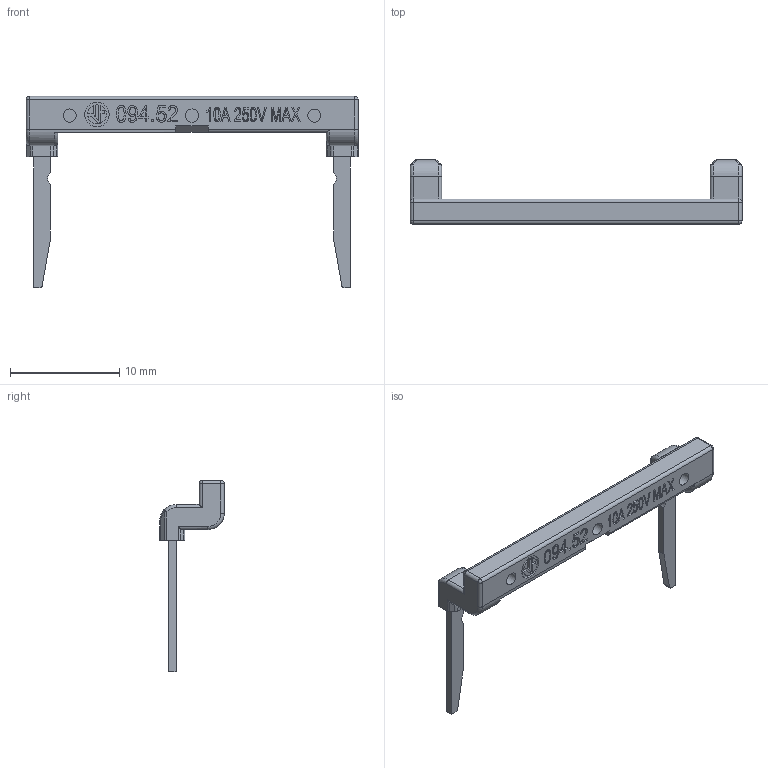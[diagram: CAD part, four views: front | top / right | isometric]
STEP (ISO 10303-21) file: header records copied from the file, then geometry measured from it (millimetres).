
FILE_DESCRIPTION(/* description */ ('Unknown'),/* implementation_level */ '2;1');
FILE_NAME(/* name */ '09452',/* time_stamp */ '2016-02-03T16:35:06+01:00',/* author */ ('Unknown'),/* organization */ ('Unknown'),/* preprocessor_version */ 'ST-DEVELOPER v16',/* originating_system */ 'DEX',/* authorisation */ $);
FILE_SCHEMA (('AUTOMOTIVE_DESIGN {1 0 10303 214 3 1 1}'));
Length unit declared in the file: millimetre
Products named in the file (3): Ponticello 2 Poli Passo 27; EF00966 Parte Plastica 2 Poli Passo27.5mm; EF00965 Parte Metallica 2 Poli Passo27.5mm
Assembly tree (2 placements, depth 2):
  Ponticello 2 Poli Passo 27
    EF00966 Parte Plastica 2 Poli Passo27.5mm
    EF00965 Parte Metallica 2 Poli Passo27.5mm
Bounding box: 30.4 x 5.9 x 17.5 mm (x, y, z)
Volume: 352.6 mm3; surface area: 787.6 mm2
Topology: 2 solids, 2 shells, 600 faces, 1585 edges, 1043 vertices
Faces by surface type: plane 335, bspline 176, cylinder 73, torus 8, sphere 8
Full cylindrical faces by diameter (mm): 1.2 x3, 2.23 x2
Entity records: 20249 total; most frequent: CARTESIAN_POINT 6394, ORIENTED_EDGE 3160, DIRECTION 2241, EDGE_CURVE 1580, LINE 1049, VECTOR 1049, VERTEX_POINT 1043, EDGE_LOOP 665
